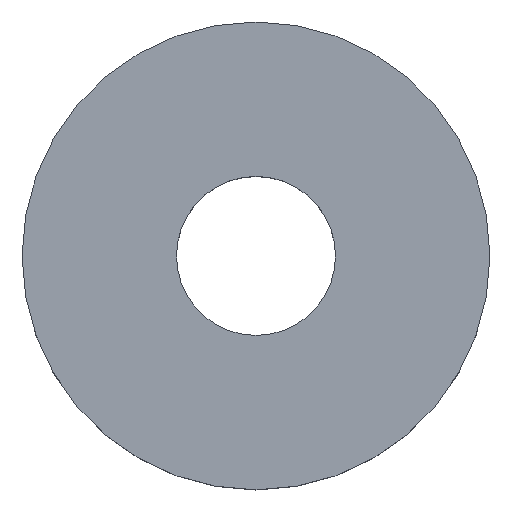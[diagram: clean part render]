
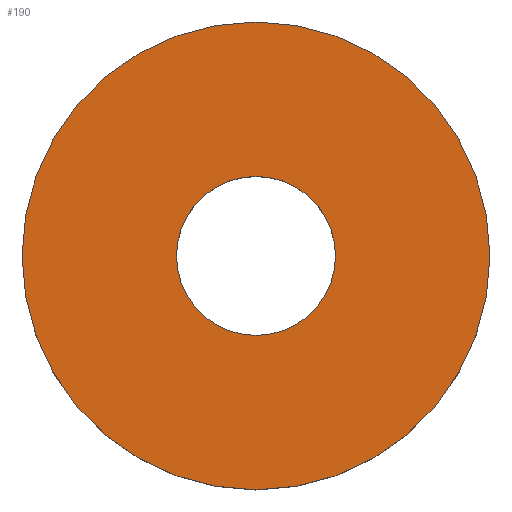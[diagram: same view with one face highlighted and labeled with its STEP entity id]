
A CAD part, top view. The second image highlights one B-rep face of the part: STEP entity #190.
In plain terms, the highlighted planar face has unit normal (0, 0, 1).
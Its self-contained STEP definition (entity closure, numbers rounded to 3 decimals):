
#24 = VERTEX_POINT('',#25);
#25 = CARTESIAN_POINT('',(5.,0.,2.));
#32 = CYLINDRICAL_SURFACE('',#33,5.);
#33 = AXIS2_PLACEMENT_3D('',#34,#35,#36);
#34 = CARTESIAN_POINT('',(0.,0.,0.));
#35 = DIRECTION('',(-0.,-0.,-1.));
#36 = DIRECTION('',(1.,0.,0.));
#51 = EDGE_CURVE('',#24,#24,#52,.T.);
#52 = SURFACE_CURVE('',#53,(#58,#65),.PCURVE_S1.);
#53 = CIRCLE('',#54,5.);
#54 = AXIS2_PLACEMENT_3D('',#55,#56,#57);
#55 = CARTESIAN_POINT('',(0.,0.,2.));
#56 = DIRECTION('',(0.,0.,1.));
#57 = DIRECTION('',(1.,0.,0.));
#58 = PCURVE('',#32,#59);
#59 = DEFINITIONAL_REPRESENTATION('',(#60),#64);
#60 = LINE('',#61,#62);
#61 = CARTESIAN_POINT('',(-0.,-2.));
#62 = VECTOR('',#63,1.);
#63 = DIRECTION('',(-1.,0.));
#64 = ( GEOMETRIC_REPRESENTATION_CONTEXT(2) 
PARAMETRIC_REPRESENTATION_CONTEXT() REPRESENTATION_CONTEXT('2D SPACE',''
  ) );
#65 = PCURVE('',#66,#71);
#66 = PLANE('',#67);
#67 = AXIS2_PLACEMENT_3D('',#68,#69,#70);
#68 = CARTESIAN_POINT('',(0.,0.,2.));
#69 = DIRECTION('',(0.,0.,1.));
#70 = DIRECTION('',(1.,0.,-0.));
#71 = DEFINITIONAL_REPRESENTATION('',(#72),#76);
#72 = CIRCLE('',#73,5.);
#73 = AXIS2_PLACEMENT_2D('',#74,#75);
#74 = CARTESIAN_POINT('',(0.,0.));
#75 = DIRECTION('',(1.,0.));
#76 = ( GEOMETRIC_REPRESENTATION_CONTEXT(2) 
PARAMETRIC_REPRESENTATION_CONTEXT() REPRESENTATION_CONTEXT('2D SPACE',''
  ) );
#112 = VERTEX_POINT('',#113);
#113 = CARTESIAN_POINT('',(1.7,0.,2.));
#120 = CYLINDRICAL_SURFACE('',#121,1.7);
#121 = AXIS2_PLACEMENT_3D('',#122,#123,#124);
#122 = CARTESIAN_POINT('',(0.,0.,0.));
#123 = DIRECTION('',(-0.,-0.,-1.));
#124 = DIRECTION('',(1.,0.,0.));
#139 = EDGE_CURVE('',#112,#112,#140,.T.);
#140 = SURFACE_CURVE('',#141,(#146,#153),.PCURVE_S1.);
#141 = CIRCLE('',#142,1.7);
#142 = AXIS2_PLACEMENT_3D('',#143,#144,#145);
#143 = CARTESIAN_POINT('',(0.,0.,2.));
#144 = DIRECTION('',(0.,0.,1.));
#145 = DIRECTION('',(1.,0.,0.));
#146 = PCURVE('',#120,#147);
#147 = DEFINITIONAL_REPRESENTATION('',(#148),#152);
#148 = LINE('',#149,#150);
#149 = CARTESIAN_POINT('',(-0.,-2.));
#150 = VECTOR('',#151,1.);
#151 = DIRECTION('',(-1.,0.));
#152 = ( GEOMETRIC_REPRESENTATION_CONTEXT(2) 
PARAMETRIC_REPRESENTATION_CONTEXT() REPRESENTATION_CONTEXT('2D SPACE',''
  ) );
#153 = PCURVE('',#66,#154);
#154 = DEFINITIONAL_REPRESENTATION('',(#155),#159);
#155 = CIRCLE('',#156,1.7);
#156 = AXIS2_PLACEMENT_2D('',#157,#158);
#157 = CARTESIAN_POINT('',(0.,0.));
#158 = DIRECTION('',(1.,0.));
#159 = ( GEOMETRIC_REPRESENTATION_CONTEXT(2) 
PARAMETRIC_REPRESENTATION_CONTEXT() REPRESENTATION_CONTEXT('2D SPACE',''
  ) );
#190 = ADVANCED_FACE('',(#191,#194),#66,.T.);
#191 = FACE_BOUND('',#192,.T.);
#192 = EDGE_LOOP('',(#193));
#193 = ORIENTED_EDGE('',*,*,#51,.T.);
#194 = FACE_BOUND('',#195,.T.);
#195 = EDGE_LOOP('',(#196));
#196 = ORIENTED_EDGE('',*,*,#139,.F.);
